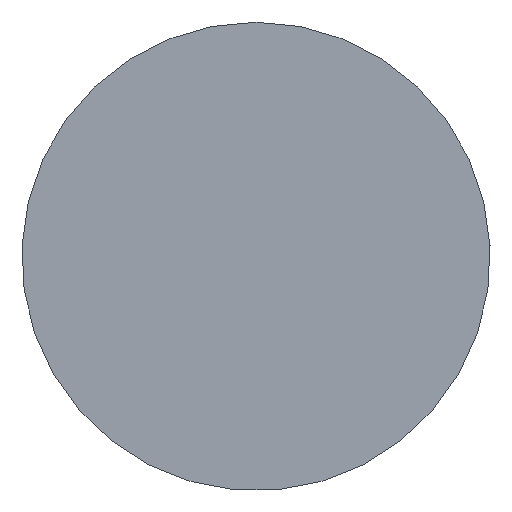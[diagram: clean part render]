
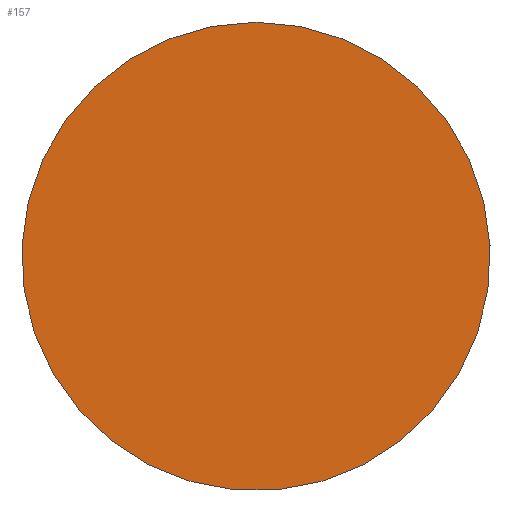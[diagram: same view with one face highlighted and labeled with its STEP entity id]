
A CAD part, left-side view. The second image highlights one B-rep face of the part: STEP entity #157.
In plain terms, the highlighted planar face has unit normal (-1, 0, 0).
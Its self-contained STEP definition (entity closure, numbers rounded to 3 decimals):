
#129 = VERTEX_POINT('',#130);
#130 = CARTESIAN_POINT('',(-2528.,0.,10.4));
#136 = EDGE_CURVE('',#129,#129,#137,.T.);
#137 = CIRCLE('',#138,10.4);
#138 = AXIS2_PLACEMENT_3D('',#139,#140,#141);
#139 = CARTESIAN_POINT('',(-2528.,0.,0.));
#140 = DIRECTION('',(1.,0.,0.));
#141 = DIRECTION('',(-0.,0.,1.));
#157 = ADVANCED_FACE('',(#158),#161,.F.);
#158 = FACE_BOUND('',#159,.T.);
#159 = EDGE_LOOP('',(#160));
#160 = ORIENTED_EDGE('',*,*,#136,.F.);
#161 = PLANE('',#162);
#162 = AXIS2_PLACEMENT_3D('',#163,#164,#165);
#163 = CARTESIAN_POINT('',(-2528.,0.,0.));
#164 = DIRECTION('',(1.,0.,0.));
#165 = DIRECTION('',(-0.,0.,1.));
